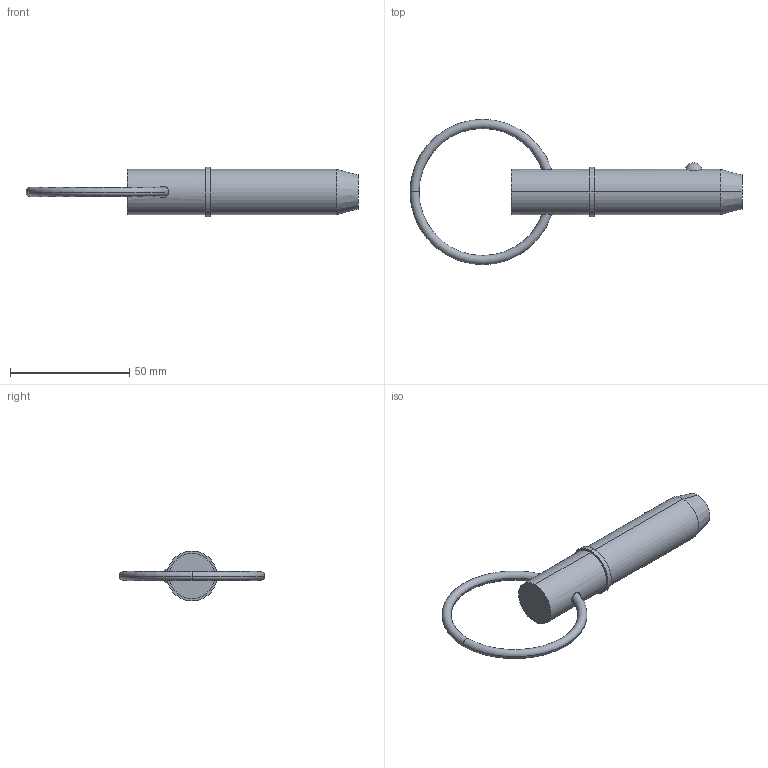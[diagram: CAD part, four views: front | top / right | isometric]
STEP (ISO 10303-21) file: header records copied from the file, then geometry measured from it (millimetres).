
FILE_DESCRIPTION (( 'STEP AP203' ), '1' );
FILE_NAME ('33016.W7515.step', '2024-11-07T11:14:08', ( '' ), ( '' ), 'SwSTEP 2.0', 'SolidWorks 2019', '' );
FILE_SCHEMA (( 'CONFIG_CONTROL_DESIGN' ));
Length unit declared in the file: millimetre
Products named in the file (3): 33016.W7515; Part2_33016.W7515; Part1_33016.W7515
Assembly tree (2 placements, depth 2):
  33016.W7515
    Part1_33016.W7515
    Part2_33016.W7515
Bounding box: 139.3 x 60.96 x 20.95 mm (x, y, z)
Volume: 28905.4 mm3; surface area: 8746.8 mm2
Topology: 2 solids, 2 shells, 22 faces, 43 edges, 26 vertices
Faces by surface type: torus 8, cylinder 6, plane 4, sphere 2, cone 2
Entity records: 1053 total; most frequent: CARTESIAN_POINT 276, DIRECTION 120, ORIENTED_EDGE 86, AXIS2_PLACEMENT_3D 56, EDGE_CURVE 43, CIRCLE 29, EDGE_LOOP 27, PERSON_AND_ORGANIZATION 26
